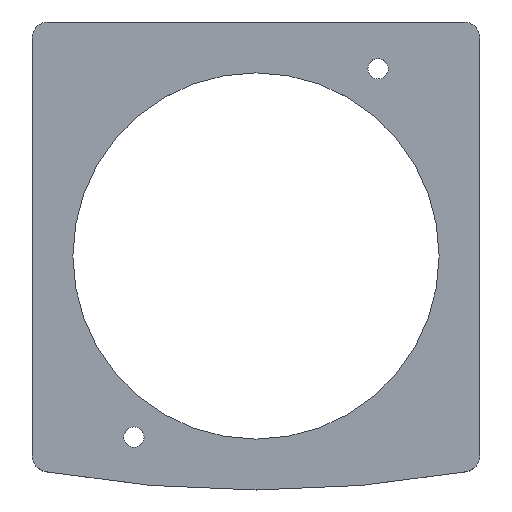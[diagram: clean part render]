
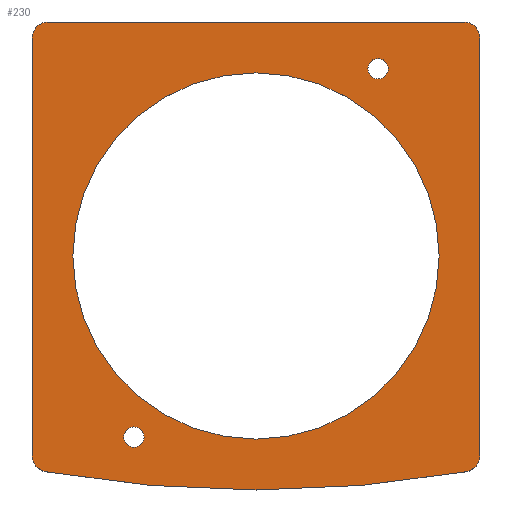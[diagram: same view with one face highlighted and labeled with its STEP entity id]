
A CAD part, top view. The second image highlights one B-rep face of the part: STEP entity #230.
In plain terms, the highlighted planar face has unit normal (0, 0, 1).
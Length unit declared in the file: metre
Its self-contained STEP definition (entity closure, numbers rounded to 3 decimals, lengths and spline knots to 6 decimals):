
#15=PLANE('',#260);
#21=LINE('',#370,#35);
#25=LINE('',#379,#39);
#27=LINE('',#383,#41);
#35=VECTOR('',#294,1.);
#39=VECTOR('',#300,1.);
#41=VECTOR('',#304,1.);
#63=ORIENTED_EDGE('',*,*,#123,.T.);
#64=ORIENTED_EDGE('',*,*,#124,.T.);
#65=ORIENTED_EDGE('',*,*,#115,.F.);
#66=ORIENTED_EDGE('',*,*,#125,.T.);
#67=ORIENTED_EDGE('',*,*,#117,.T.);
#68=ORIENTED_EDGE('',*,*,#126,.T.);
#69=ORIENTED_EDGE('',*,*,#107,.F.);
#70=ORIENTED_EDGE('',*,*,#127,.T.);
#71=ORIENTED_EDGE('',*,*,#111,.F.);
#72=ORIENTED_EDGE('',*,*,#128,.T.);
#73=ORIENTED_EDGE('',*,*,#121,.F.);
#107=EDGE_CURVE('',#137,#138,#158,.T.);
#111=EDGE_CURVE('',#141,#142,#21,.T.);
#115=EDGE_CURVE('',#145,#146,#25,.T.);
#117=EDGE_CURVE('',#147,#148,#27,.T.);
#121=EDGE_CURVE('',#151,#151,#159,.T.);
#123=EDGE_CURVE('',#153,#153,#161,.F.);
#124=EDGE_CURVE('',#154,#154,#162,.F.);
#125=EDGE_CURVE('',#145,#147,#163,.T.);
#126=EDGE_CURVE('',#148,#138,#164,.T.);
#127=EDGE_CURVE('',#137,#142,#165,.T.);
#128=EDGE_CURVE('',#141,#146,#166,.T.);
#137=VERTEX_POINT('',#360);
#138=VERTEX_POINT('',#362);
#141=VERTEX_POINT('',#369);
#142=VERTEX_POINT('',#371);
#145=VERTEX_POINT('',#378);
#146=VERTEX_POINT('',#380);
#147=VERTEX_POINT('',#384);
#148=VERTEX_POINT('',#385);
#151=VERTEX_POINT('',#393);
#153=VERTEX_POINT('',#398);
#154=VERTEX_POINT('',#400);
#158=CIRCLE('',#253,0.3);
#159=CIRCLE('',#258,0.045);
#161=CIRCLE('',#261,0.0025);
#162=CIRCLE('',#262,0.0025);
#163=CIRCLE('',#263,0.004);
#164=CIRCLE('',#264,0.004);
#165=CIRCLE('',#265,0.004);
#166=CIRCLE('',#266,0.004);
#179=EDGE_LOOP('',(#63));
#180=EDGE_LOOP('',(#64));
#181=EDGE_LOOP('',(#65,#66,#67,#68,#69,#70,#71,#72));
#182=EDGE_LOOP('',(#73));
#201=FACE_BOUND('',#179,.T.);
#202=FACE_BOUND('',#180,.T.);
#203=FACE_BOUND('',#181,.T.);
#204=FACE_BOUND('',#182,.T.);
#230=ADVANCED_FACE('',(#201,#202,#203,#204),#15,.T.);
#253=AXIS2_PLACEMENT_3D('',#361,#287,#288);
#258=AXIS2_PLACEMENT_3D('',#392,#310,#311);
#260=AXIS2_PLACEMENT_3D('',#396,#314,#315);
#261=AXIS2_PLACEMENT_3D('',#397,#316,#317);
#262=AXIS2_PLACEMENT_3D('',#399,#318,#319);
#263=AXIS2_PLACEMENT_3D('',#401,#320,#321);
#264=AXIS2_PLACEMENT_3D('',#402,#322,#323);
#265=AXIS2_PLACEMENT_3D('',#403,#324,#325);
#266=AXIS2_PLACEMENT_3D('',#404,#326,#327);
#287=DIRECTION('',(0.,0.,-1.));
#288=DIRECTION('',(1.,0.,0.));
#294=DIRECTION('',(0.,-1.,0.));
#300=DIRECTION('',(1.,0.,0.));
#304=DIRECTION('',(0.,-1.,0.));
#310=DIRECTION('',(0.,0.,1.));
#311=DIRECTION('',(1.,0.,0.));
#314=DIRECTION('',(0.,0.,1.));
#315=DIRECTION('',(1.,0.,0.));
#316=DIRECTION('',(0.,0.,1.));
#317=DIRECTION('',(1.,0.,0.));
#318=DIRECTION('',(0.,0.,1.));
#319=DIRECTION('',(1.,0.,0.));
#320=DIRECTION('',(0.,0.,1.));
#321=DIRECTION('',(1.,0.,0.));
#322=DIRECTION('',(0.,0.,1.));
#323=DIRECTION('',(1.,0.,0.));
#324=DIRECTION('',(0.,0.,1.));
#325=DIRECTION('',(1.,0.,0.));
#326=DIRECTION('',(0.,0.,1.));
#327=DIRECTION('',(1.,0.,0.));
#360=CARTESIAN_POINT('',(0.051689,0.004487,0.002));
#361=CARTESIAN_POINT('',(0.,0.3,0.002));
#362=CARTESIAN_POINT('',(-0.051689,0.004487,0.002));
#369=CARTESIAN_POINT('',(0.055,0.111,0.002));
#370=CARTESIAN_POINT('',(0.055,0.060042,0.002));
#371=CARTESIAN_POINT('',(0.055,0.008427,0.002));
#378=CARTESIAN_POINT('',(-0.051,0.115,0.002));
#379=CARTESIAN_POINT('',(0.,0.115,0.002));
#380=CARTESIAN_POINT('',(0.051,0.115,0.002));
#383=CARTESIAN_POINT('',(-0.055,0.060042,0.002));
#384=CARTESIAN_POINT('',(-0.055,0.111,0.002));
#385=CARTESIAN_POINT('',(-0.055,0.008427,0.002));
#392=CARTESIAN_POINT('',(0.,0.0575,0.002));
#393=CARTESIAN_POINT('',(0.045,0.0575,0.002));
#396=CARTESIAN_POINT('',(0.,0.162,0.002));
#397=CARTESIAN_POINT('',(0.03,0.1035,0.002));
#398=CARTESIAN_POINT('',(0.0325,0.1035,0.002));
#399=CARTESIAN_POINT('',(-0.03,0.013,0.002));
#400=CARTESIAN_POINT('',(-0.0275,0.013,0.002));
#401=CARTESIAN_POINT('',(-0.051,0.111,0.002));
#402=CARTESIAN_POINT('',(-0.051,0.008427,0.002));
#403=CARTESIAN_POINT('',(0.051,0.008427,0.002));
#404=CARTESIAN_POINT('',(0.051,0.111,0.002));
